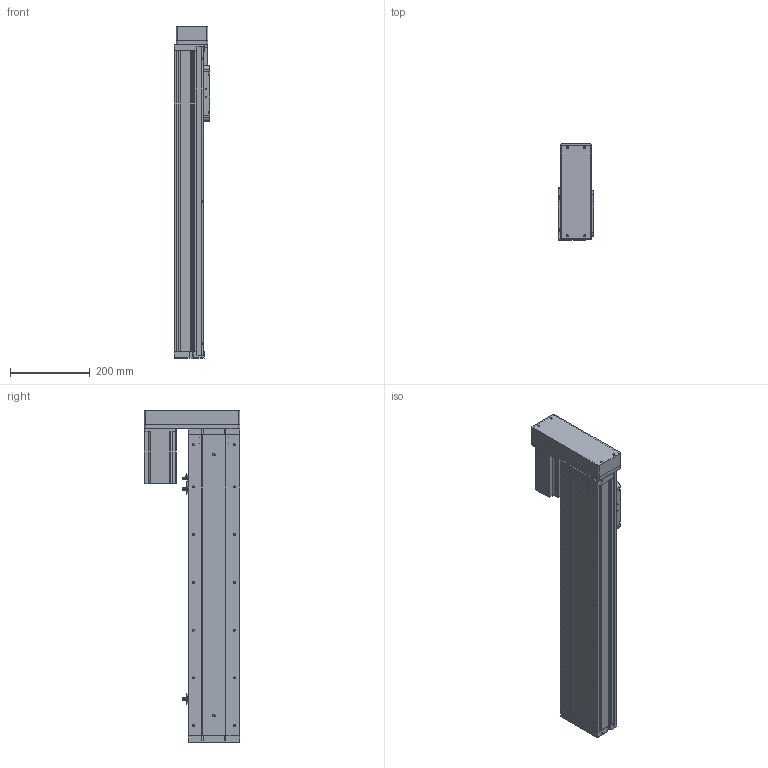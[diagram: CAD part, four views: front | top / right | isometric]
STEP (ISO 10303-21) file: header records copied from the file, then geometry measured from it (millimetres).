
FILE_DESCRIPTION (( 'STEP AP214' ), '1' );
FILE_NAME ('KSD130S-P2010-ML-CR-S550.STEP', '2019-09-24T06:12:59', ( '微软用户' ), ( '微软中国' ), 'SwSTEP 2.0', 'SolidWorks 2014', '' );
FILE_SCHEMA (( 'AUTOMOTIVE_DESIGN' ));
Length unit declared in the file: millimetre
Products named in the file (14): 130宽模组马达安装板连板左右折丝杆; 感应片130宽全封闭; U倰嫖萇EEㄜSX672; 130遵裔啣揤啣1; 130宽模组保护罩左右折; 130宽盖板全封闭-550行程; 130宽滚珠螺姆安装板1防护罩; 130宽滚珠螺姆安装板1; 130宽侧板全封闭-550行程; 130宽全封闭马达安装板丝杠; 130宽全封闭端盖丝杠; 130宽底板全封闭丝杠-550行程; KSD130S-P2010-ML-CR-S550; 台达ECMA－C20807AS伺服电机
Assembly tree (17 placements, depth 2):
  KSD130S-P2010-ML-CR-S550
    130宽底板全封闭丝杠-550行程
    130宽全封闭端盖丝杠
    130宽全封闭马达安装板丝杠
    130宽侧板全封闭-550行程  x2
    130宽滚珠螺姆安装板1
    130宽滚珠螺姆安装板1防护罩
    130宽盖板全封闭-550行程
    130遵裔啣揤啣1  x2
    U倰嫖萇EEㄜSX672  x3
    感应片130宽全封闭
    130宽模组马达安装板连板左右折丝杆
    台达ECMA－C20807AS伺服电机
    130宽模组保护罩左右折
Bounding box: 90 x 240 x 834.5 mm (x, y, z)
Volume: 3411282.7 mm3; surface area: 1057649.3 mm2
Topology: 18 solids, 18 shells, 1450 faces, 3952 edges, 2495 vertices
Faces by surface type: cylinder 636, plane 611, cone 203
Entity records: 43974 total; most frequent: DIRECTION 6691, CARTESIAN_POINT 6603, ORIENTED_EDGE 6206, EDGE_CURVE 3103, AXIS2_PLACEMENT_3D 2399, VERTEX_POINT 2025, VECTOR 1893, LINE 1893
